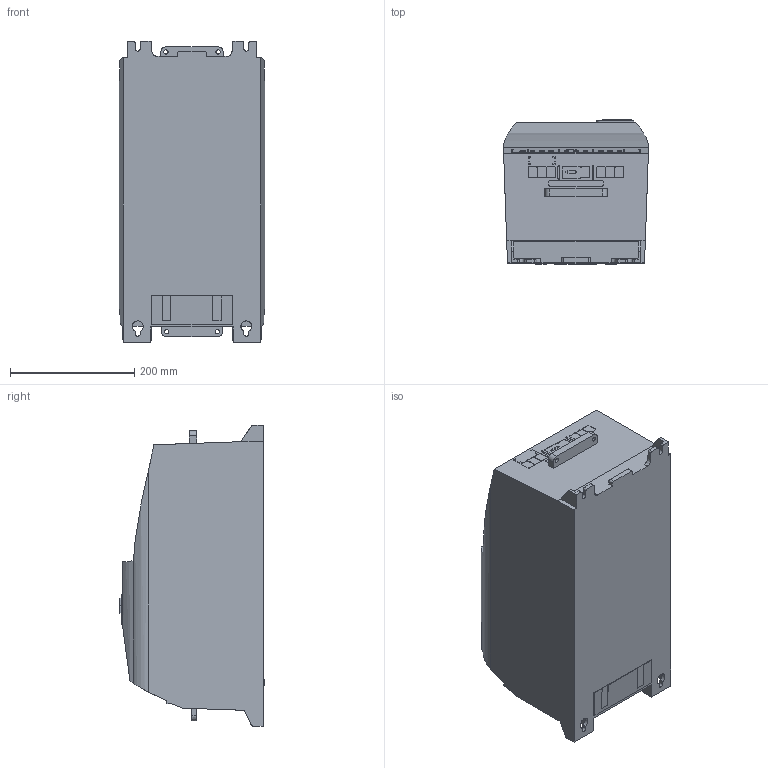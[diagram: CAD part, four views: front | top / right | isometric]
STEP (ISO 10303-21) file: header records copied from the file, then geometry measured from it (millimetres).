
FILE_DESCRIPTION((''),'2;1');
FILE_NAME('E3_IP20_SIZE_5','2024-01-09T23:48:37',('TralauTi'),('Draeger Safety AG & Co KG aA'),'CREO PARAMETRIC BY PTC INC, 2022414','CREO PARAMETRIC BY PTC INC, 2022414','');
FILE_SCHEMA(('CONFIG_CONTROL_DESIGN'));
Length unit declared in the file: millimetre
Products named in the file (1): E3_IP20_SIZE_5
Bounding box: 233.97 x 232.8 x 485.49 mm (x, y, z)
Volume: 19935520.9 mm3; surface area: 495831.5 mm2
Topology: 1 solids, 1 shells, 481 faces, 1264 edges, 840 vertices
Faces by surface type: plane 238, extrusion 135, cylinder 106, bspline 2
Entity records: 18881 total; most frequent: CARTESIAN_POINT 7557, ORIENTED_EDGE 2528, DIRECTION 1822, EDGE_CURVE 1264, VECTOR 912, VERTEX_POINT 840, LINE 777, EDGE_LOOP 548
